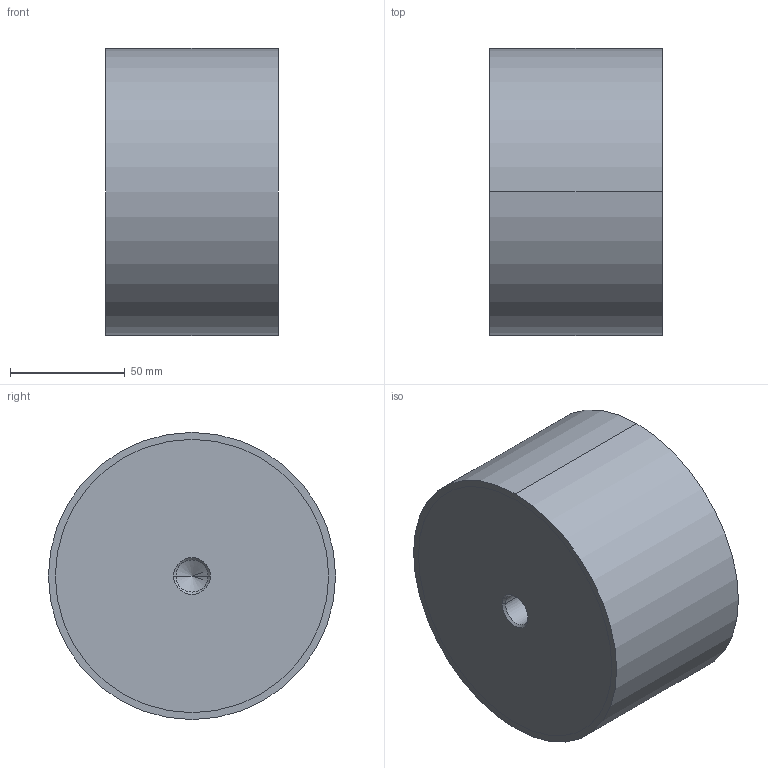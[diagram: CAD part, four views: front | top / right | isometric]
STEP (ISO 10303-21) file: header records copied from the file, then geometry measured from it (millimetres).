
FILE_DESCRIPTION (( 'STEP AP214' ), '1' );
FILE_NAME ('451-125-75-M16-EE-55.step', '2020-03-05T09:09:59', ( '' ), ( '' ), 'SwSTEP 2.0', 'SolidWorks 2019', '' );
FILE_SCHEMA (( 'AUTOMOTIVE_DESIGN' ));
Length unit declared in the file: millimetre
Products named in the file (1): 451-125-75-M16-EE-55
Bounding box: 75 x 125 x 125 mm (x, y, z)
Volume: 914766.3 mm3; surface area: 55413 mm2
Topology: 1 solids, 1 shells, 22 faces, 46 edges, 26 vertices
Faces by surface type: cylinder 10, cone 8, plane 4
Entity records: 684 total; most frequent: DIRECTION 112, CARTESIAN_POINT 91, ORIENTED_EDGE 84, AXIS2_PLACEMENT_3D 47, EDGE_CURVE 42, VERTEX_POINT 26, EDGE_LOOP 26, CIRCLE 24
